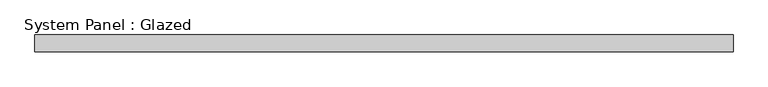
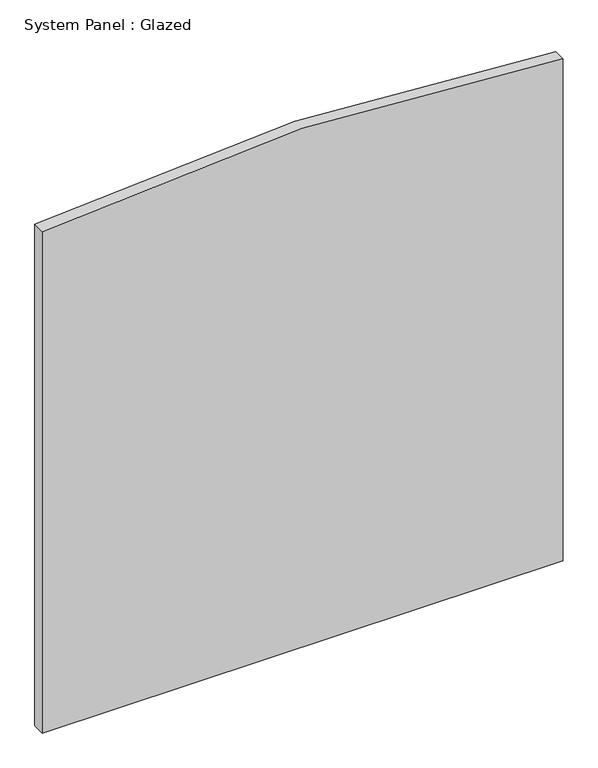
"""IFC4 building model written with IfcOpenShell, lengths in millimetres: plate geometry, System Panel : Glazed."""

from ifc_helpers import new_model, si_unit, point, frame, frame_2d, origin, place, context, project, spatial, polyline, circle_curve, trimmed, segment, composite_curve, outline, extrude, source, transform, mapped, element, save


def system_panel_glazed_d420fa7b(model_context):
    return source(origin(), model_context, "Body", "SweptSolid", [
        extrude(outline(composite_curve([segment(polyline([(0.0, -534.3071428), (0.0, 534.3071428), (1087.1656232, 534.3071428)]), True, "CONTINUOUS"), segment(trimmed(circle_curve(frame_2d((-2774.95, 0.0)), 3898.9), [point((1087.1656232, 534.3071428))], [point((1087.1656232, -534.3071428))], False, "CARTESIAN"), True, "CONTINUOUS"), segment(polyline([(1087.1656232, -534.3071428), (0.0, -534.3071428)]), True, "CONTINUOUS")], self_intersect=False)), frame((0.0, -44.45, 0.0), z_axis=(0.0, 1.0, 0.0), x_axis=(0.0, 0.0, 1.0)), (0.0, 0.0, 1.0), 25.4),
    ])


if __name__ == "__main__":
    model = new_model("IFC4")
    model_context = context("Model", 3, world=origin())
    ifc_project = project(units=[si_unit("LENGTHUNIT", "METRE", prefix="MILLI")], contexts=[model_context])
    site = spatial("IfcSite", under=ifc_project)
    building = spatial("IfcBuilding", under=site)
    placement = place(None, origin())
    system_panel_glazed_shape = system_panel_glazed_d420fa7b(model_context)
    element("IfcPlate", 1, ObjectType="System Panel : Glazed", at=placement, inside=building, context=model_context, shape_type="MappedRepresentation", body=[
        mapped(system_panel_glazed_shape, transform((0.0, 0.0, 0.0), x_axis=(1.0, 0.0, 0.0), y_axis=(0.0, 1.0, 0.0), z_axis=(0.0, 0.0, 1.0))),
    ])
    save(model, "model.ifc")
